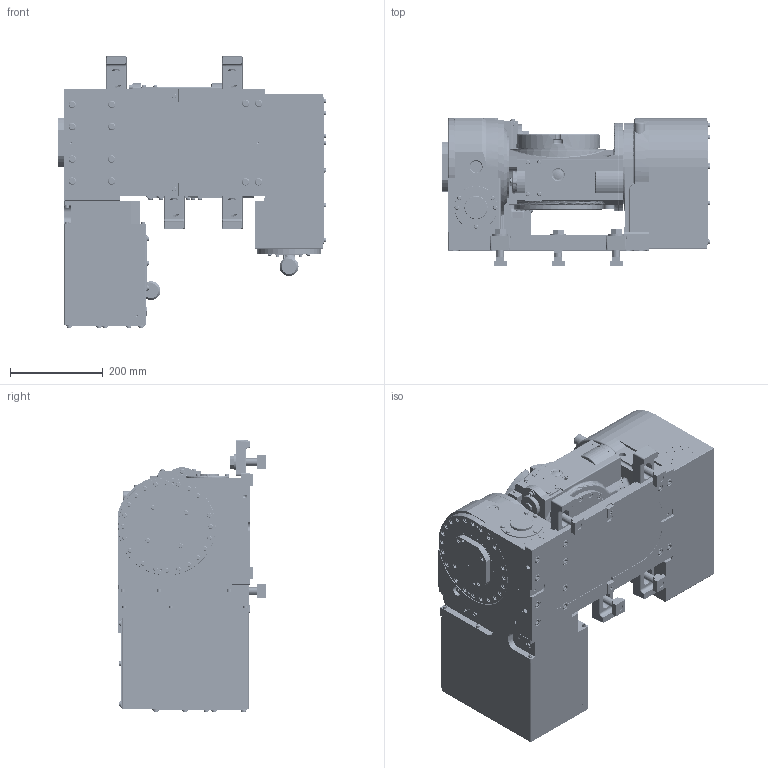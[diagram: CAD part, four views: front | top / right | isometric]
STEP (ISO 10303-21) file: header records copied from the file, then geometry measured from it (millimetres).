
FILE_DESCRIPTION (( 'STEP AP214' ), '1' );
FILE_NAME ('【掲載用】TT182Quinte.STEP', '2019-10-15T06:21:57', ( '' ), ( '' ), 'SwSTEP 2.0', 'SolidWorks 2017', '' );
FILE_SCHEMA (( 'AUTOMOTIVE_DESIGN' ));
Length unit declared in the file: millimetre
Products named in the file (18): モータケース(61E252972)TT182B5-0; ケイシャモータクドウASSY(61E3817573)TT182B00_回転モデル; パッキングプレートPAD(61E4544200)TT182B00_回転モデル; ササエPAD(61E3817482)TT182B00_回転モデル; ケイシャホンタイASSY(61E2668341)TT182B02_回転モデル; 【掲載用】TT182Quinte; CLAMPING PARTS（61E424758）; TABLE(61E8445480)TT182B02; BODY(61E1113036)TT182B02; BASE_TT182BV; 働乕僽儖N29ZSZ2562; コネクタプレート(61E448255); KQ2E06-03(W僔乕儖); コネクタプレート(61E4591381)TT182BF2-1; ハイカンシャフトPAD(61E3857561)TT182B5-0_回転モデル; キタガワシール; SMC KQ2E06-02; モータケース(61E281100)TT182BF-05
Assembly tree (22 placements, depth 3):
  【掲載用】TT182Quinte
    BASE_TT182BV
      ケイシャホンタイASSY(61E2668341)TT182B02_回転モデル
      ササエPAD(61E3817482)TT182B00_回転モデル
      パッキングプレートPAD(61E4544200)TT182B00_回転モデル
      ケイシャモータクドウASSY(61E3817573)TT182B00_回転モデル
      モータケース(61E252972)TT182B5-0
      モータケース(61E281100)TT182BF-05
      SMC KQ2E06-02
      キタガワシール
      ハイカンシャフトPAD(61E3857561)TT182B5-0_回転モデル
      コネクタプレート(61E4591381)TT182BF2-1
      KQ2E06-03(W僔乕儖)  x2
      コネクタプレート(61E448255)
      働乕僽儖N29ZSZ2562  x2
    BODY(61E1113036)TT182B02
    TABLE(61E8445480)TT182B02
    CLAMPING PARTS（61E424758）  x4
Bounding box: 576.8 x 318 x 586.8 mm (x, y, z)
Volume: 44195629.8 mm3; surface area: 2180000.7 mm2
Topology: 27 solids, 29 shells, 5768 faces, 14222 edges, 9143 vertices
Faces by surface type: plane 3550, cylinder 1416, cone 502, torus 207, bspline 85, sphere 8
Entity records: 194852 total; most frequent: CARTESIAN_POINT 32062, DIRECTION 27419, ORIENTED_EDGE 26826, EDGE_CURVE 13413, LINE 9633, VECTOR 9633, AXIS2_PLACEMENT_3D 8893, VERTEX_POINT 8682
